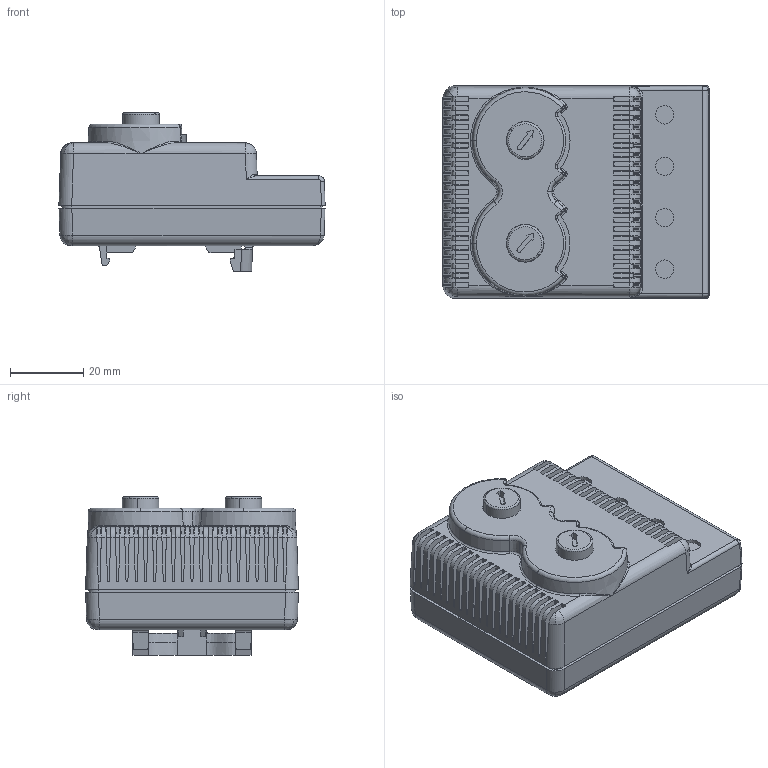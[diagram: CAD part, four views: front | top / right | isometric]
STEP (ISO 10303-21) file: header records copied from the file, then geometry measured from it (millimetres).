
FILE_DESCRIPTION (( 'STEP AP214' ), '1' );
FILE_NAME ('TRT2-10A230V.STEP', '2023-10-20T13:37:18', ( '' ), ( '' ), 'SwSTEP 2.0', 'SolidWorks 2022', '' );
FILE_SCHEMA (( 'AUTOMOTIVE_DESIGN' ));
Length unit declared in the file: millimetre
Products named in the file (4): DT-01612DSI_semplificata; TRT2-10A230V; DT-01580DSI_semplificata; DT-02161DSI_semplificata
Assembly tree (4 placements, depth 2):
  TRT2-10A230V
    DT-01580DSI_semplificata
    DT-01612DSI_semplificata
    DT-02161DSI_semplificata  x2
Bounding box: 72.5 x 58 x 43.26 mm (x, y, z)
Volume: 113779.4 mm3; surface area: 30916.2 mm2
Topology: 4 solids, 20 shells, 936 faces, 2525 edges, 1636 vertices
Faces by surface type: plane 437, cylinder 328, bspline 79, cone 47, torus 43, sphere 2
Entity records: 32926 total; most frequent: CARTESIAN_POINT 9929, ORIENTED_EDGE 4958, DIRECTION 3731, EDGE_CURVE 2479, VERTEX_POINT 1612, LINE 1463, VECTOR 1463, AXIS2_PLACEMENT_3D 1134
